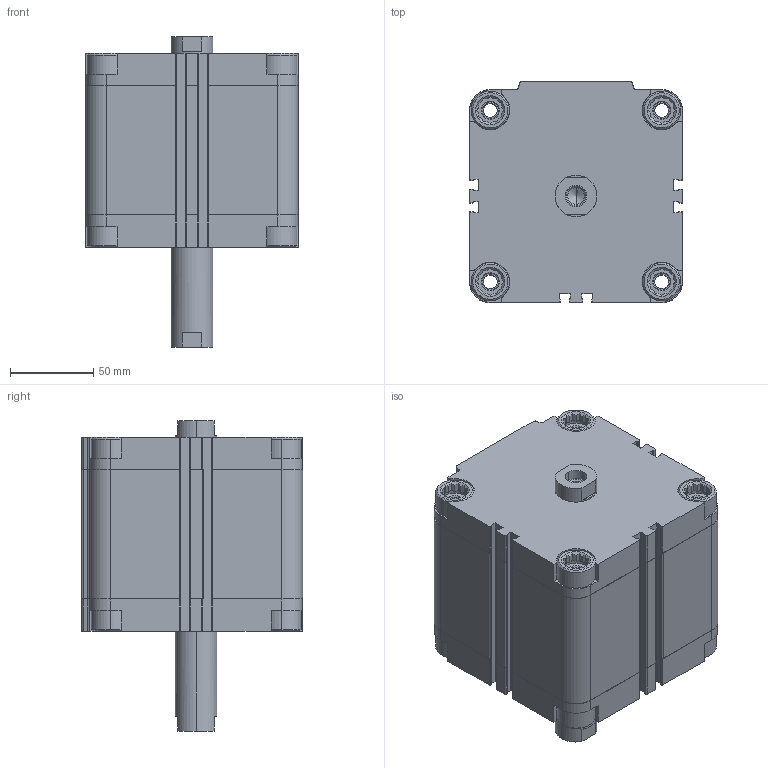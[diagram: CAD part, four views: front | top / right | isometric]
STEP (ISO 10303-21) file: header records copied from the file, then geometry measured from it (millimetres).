
FILE_DESCRIPTION (( 'STEP AP203' ), '1' );
FILE_NAME ('CDVU100-50F-P.STEP', '2020-07-24T18:42:36', ( '' ), ( '' ), 'SwSTEP 2.0', 'SolidWorks 2019', '' );
FILE_SCHEMA (( 'CONFIG_CONTROL_DESIGN' ));
Length unit declared in the file: millimetre
Products named in the file (1): CDVU100-50F-P
Bounding box: 128 x 133 x 186.5 mm (x, y, z)
Volume: 1492793.6 mm3; surface area: 198544.9 mm2
Topology: 2 solids, 2 shells, 670 faces, 1812 edges, 1188 vertices
Faces by surface type: plane 394, cylinder 212, cone 64
Entity records: 21267 total; most frequent: CARTESIAN_POINT 4239, ORIENTED_EDGE 3608, DIRECTION 3458, EDGE_CURVE 1804, VERTEX_POINT 1188, AXIS2_PLACEMENT_3D 1175, LINE 1108, VECTOR 1108
